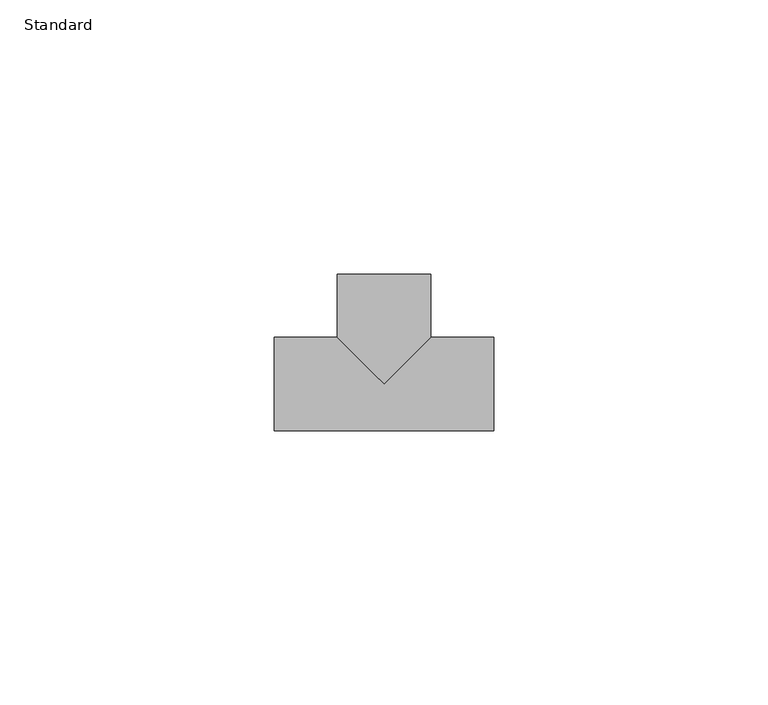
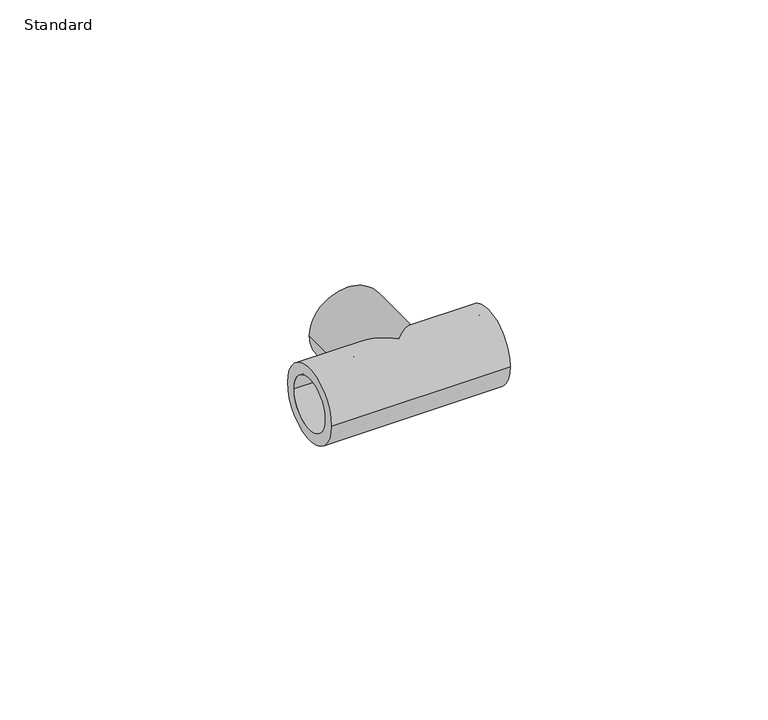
"""IFC4 building model written with IfcOpenShell, lengths in millimetres: pipe fitting geometry, Durapipe_PipeFitting_PVC_Tee90degEqual : Standard."""

from ifc_helpers import new_model, si_unit, frame, origin, place, context, project, spatial, polyline, circle_curve, ellipse_curve, source, transform, mapped, element, save
from ifc_brep_helpers import plane_surface, cylinder_surface, revolved_surface, advanced_brep


def standard_9f89ecc7(model_context):
    return source(origin(), model_context, "Body", "AdvancedBrep", [
        advanced_brep(
        [(-8.5, 20.0, 0.0), (8.5, 20.0, 0.0), (-6.0, 20.0, 0.0), (6.0, 20.0, 0.0), (-8.5, 8.5, 0.0), (0.0, 0.0, 8.5), (8.5, 8.5, 0.0), (0.0, 0.0, -8.5), (-20.0, -8.5, 0.0), (-20.0, 8.5, 0.0), (-20.0, -6.0, 0.0), (-20.0, 6.0, 0.0), (20.0, -8.5, 0.0), (20.0, 8.5, 0.0), (20.0, 6.0, 0.0), (20.0, -6.0, 0.0), (6.0, 8.0, 0.0), (-6.0, 8.0, 0.0), (0.0, 8.0, 0.0), (8.0, -6.0, 0.0), (8.0, 6.0, 0.0), (8.0, 0.0, 0.0), (-8.0, -6.0, 0.0), (-8.0, 6.0, 0.0), (-8.0, 0.0, 0.0)],
        [
            (0, 1, circle_curve(frame((0.0, 20.0, 0.0), z_axis=(0.0, 1.0, 0.0), x_axis=(1.0, 0.0, 0.0)), 8.5)),
            (1, 0, circle_curve(frame((0.0, 20.0, 0.0), z_axis=(0.0, 1.0, 0.0), x_axis=(1.0, 0.0, 0.0)), 8.5)),
            (2, 3, circle_curve(frame((0.0, 20.0, 0.0), z_axis=(0.0, -1.0, 0.0), x_axis=(-1.0, 0.0, 0.0)), 6.0)),
            (3, 2, circle_curve(frame((0.0, 20.0, 0.0), z_axis=(0.0, -1.0, 0.0), x_axis=(-1.0, 0.0, 0.0)), 6.0)),
            (0, 4),
            (4, 5, ellipse_curve(frame((0.0, 0.0, 0.0), z_axis=(0.7071067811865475, 0.7071067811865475, 0.0), x_axis=(-0.7071067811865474, 0.7071067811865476, 0.0)), 12.0208153, 8.5)),
            (5, 6, ellipse_curve(frame((0.0, 0.0, 0.0), z_axis=(-0.7071067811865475, 0.7071067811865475, 0.0), x_axis=(0.7071067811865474, 0.7071067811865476, 0.0)), 12.0208153, 8.5)),
            (6, 1),
            (6, 7, ellipse_curve(frame((0.0, 0.0, 0.0), z_axis=(-0.7071067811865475, 0.7071067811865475, 0.0), x_axis=(0.7071067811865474, 0.7071067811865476, 0.0)), 12.0208153, 8.5)),
            (7, 4, ellipse_curve(frame((0.0, 0.0, 0.0), z_axis=(0.7071067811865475, 0.7071067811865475, 0.0), x_axis=(-0.7071067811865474, 0.7071067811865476, 0.0)), 12.0208153, 8.5)),
            (8, 9, circle_curve(frame((-20.0, 0.0, 0.0), z_axis=(-1.0, 0.0, 0.0), x_axis=(0.0, 1.0, 0.0)), 8.5)),
            (9, 8, circle_curve(frame((-20.0, 0.0, 0.0), z_axis=(-1.0, 0.0, 0.0), x_axis=(0.0, 1.0, 0.0)), 8.5)),
            (10, 11, circle_curve(frame((-20.0, 0.0, 0.0), z_axis=(1.0, 0.0, 0.0), x_axis=(0.0, 1.0, 0.0)), 6.0)),
            (11, 10, circle_curve(frame((-20.0, 0.0, 0.0), z_axis=(1.0, 0.0, 0.0), x_axis=(0.0, 1.0, 0.0)), 6.0)),
            (12, 13, circle_curve(frame((20.0, 0.0, 0.0), z_axis=(1.0, 0.0, 0.0), x_axis=(0.0, 1.0, 0.0)), 8.5)),
            (13, 12, circle_curve(frame((20.0, 0.0, 0.0), z_axis=(1.0, 0.0, 0.0), x_axis=(0.0, 1.0, 0.0)), 8.5)),
            (14, 15, circle_curve(frame((20.0, 0.0, 0.0), z_axis=(-1.0, 0.0, 0.0), x_axis=(0.0, 1.0, 0.0)), 6.0)),
            (15, 14, circle_curve(frame((20.0, 0.0, 0.0), z_axis=(-1.0, 0.0, 0.0), x_axis=(0.0, 1.0, 0.0)), 6.0)),
            (8, 12),
            (13, 6),
            (4, 9),
            (16, 3),
            (2, 17),
            (17, 16, circle_curve(frame((0.0, 8.0, 0.0), z_axis=(0.0, -1.0, 0.0), x_axis=(-1.0, 0.0, 0.0)), 6.0)),
            (16, 17, circle_curve(frame((0.0, 8.0, 0.0), z_axis=(0.0, -1.0, 0.0), x_axis=(-1.0, 0.0, 0.0)), 6.0)),
            (17, 18),
            (18, 16),
            (19, 15),
            (14, 20),
            (20, 19, circle_curve(frame((8.0, 0.0, 0.0), z_axis=(-1.0, 0.0, 0.0), x_axis=(0.0, 1.0, 0.0)), 6.0)),
            (19, 20, circle_curve(frame((8.0, 0.0, 0.0), z_axis=(-1.0, 0.0, 0.0), x_axis=(0.0, 1.0, 0.0)), 6.0)),
            (20, 21),
            (21, 19),
            (10, 22),
            (22, 23, circle_curve(frame((-8.0, 0.0, 0.0), z_axis=(1.0, 0.0, 0.0), x_axis=(0.0, 1.0, 0.0)), 6.0)),
            (23, 11),
            (23, 22, circle_curve(frame((-8.0, 0.0, 0.0), z_axis=(1.0, 0.0, 0.0), x_axis=(0.0, 1.0, 0.0)), 6.0)),
            (22, 24),
            (24, 23),
        ],
        [
            plane_surface(frame((0.0, 20.0, 0.0), z_axis=(0.0, 1.0, 0.0), x_axis=(0.0, 0.0, 1.0))),
            cylinder_surface(frame((0.0, 20.0, 0.0), z_axis=(0.0, 1.0, 0.0), x_axis=(1.0, 0.0, 0.0)), 8.5),
            plane_surface(frame((-20.0, 0.0, 0.0), z_axis=(-1.0, 0.0, 0.0), x_axis=(0.0, 0.0, 1.0))),
            plane_surface(frame((20.0, 0.0, 0.0), z_axis=(1.0, 0.0, 0.0), x_axis=(0.0, 0.0, 1.0))),
            cylinder_surface(frame((-20.0, 0.0, 0.0), z_axis=(-1.0, 0.0, 0.0), x_axis=(0.0, 1.0, 0.0)), 8.5),
            revolved_surface(polyline([(-6.0, 8.0, 0.0), (-6.0, 20.0, 0.0)]), (0.0, 1995.0, 0.0), (0.0, -1.0, 0.0)),
            plane_surface(frame((0.0, 8.0, 0.0), z_axis=(0.0, 1.0, 0.0), x_axis=(-1.0, 0.0, 0.0))),
            revolved_surface(polyline([(8.0, 6.0, 0.0), (20.0, 6.0, 0.0)]), (1996.5, 0.0, 0.0), (-1.0, 0.0, 0.0)),
            plane_surface(frame((8.0, 0.0, 0.0), z_axis=(1.0, 0.0, 0.0), x_axis=(0.0, 1.0, 0.0))),
            revolved_surface(polyline([(-20.0, 6.0, 0.0), (-8.0, 6.0, 0.0)]), (1996.5, 0.0, 0.0), (-1.0, 0.0, 0.0)),
            plane_surface(frame((-8.0, 0.0, 0.0), z_axis=(-1.0, 0.0, 0.0), x_axis=(0.0, 1.0, 0.0))),
        ],
        [
            (0, [[1, 2], [3, 4]]),
            (1, [[-1, 5, 6, 7, 8]]),
            (1, [[-2, -8, 9, 10, -5]]),
            (2, [[11, 12], [13, 14]]),
            (3, [[15, 16], [17, 18]]),
            (4, [[-11, 19, -16, 20, -7, -6, 21]]),
            (4, [[-12, -21, -10, -9, -20, -15, -19]]),
            (5, [[22, -3, 23, 24]]),
            (5, [[-22, 25, -23, -4]]),
            (6, [[-24, 26, 27]]),
            (6, [[-25, -27, -26]]),
            (7, [[28, -17, 29, 30]]),
            (7, [[-28, 31, -29, -18]]),
            (8, [[-30, 32, 33]]),
            (8, [[-31, -33, -32]]),
            (9, [[34, 35, 36, -13]]),
            (9, [[-34, -14, -36, 37]]),
            (10, [[-35, 38, 39]]),
            (10, [[-37, -39, -38]]),
        ],
    ),
    ])


if __name__ == "__main__":
    model = new_model("IFC4")
    model_context = context("Model", 3, world=origin())
    ifc_project = project(units=[si_unit("LENGTHUNIT", "METRE", prefix="MILLI")], contexts=[model_context])
    site = spatial("IfcSite", under=ifc_project)
    building = spatial("IfcBuilding", under=site)
    placement = place(None, origin())
    standard_shape = standard_9f89ecc7(model_context)
    element("IfcPipeFitting", 1, ObjectType="Durapipe_PipeFitting_PVC_Tee90degEqual : Standard", at=placement, inside=building, context=model_context, shape_type="MappedRepresentation", body=[
        mapped(standard_shape, transform((0.0, 0.0, 0.0), x_axis=(1.0, 0.0, 0.0), y_axis=(0.0, 1.0, 0.0), z_axis=(0.0, 0.0, 1.0))),
    ])
    save(model, "model.ifc")
